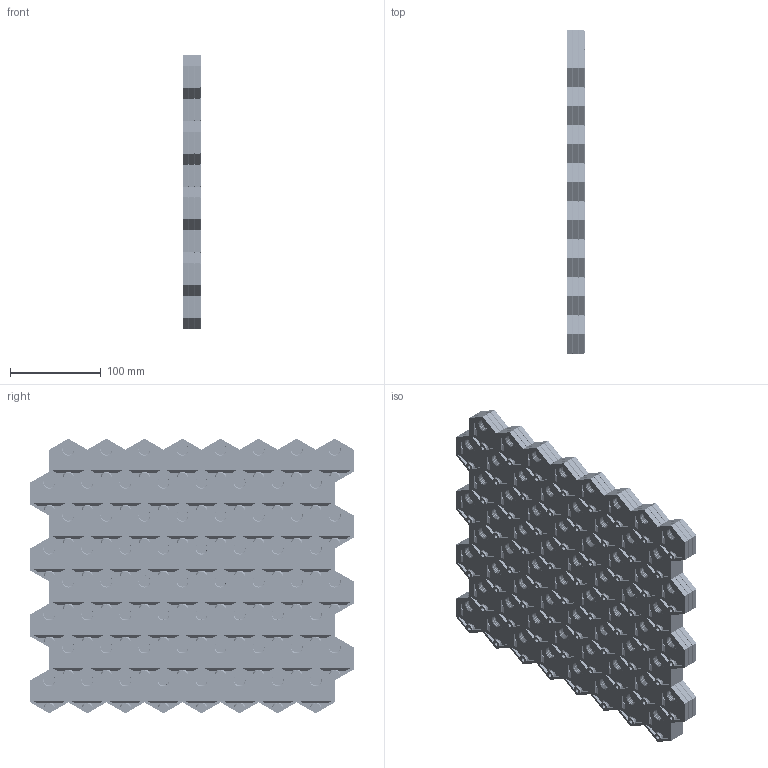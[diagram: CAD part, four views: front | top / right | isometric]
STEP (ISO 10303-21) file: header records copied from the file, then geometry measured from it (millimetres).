
FILE_DESCRIPTION(/* description */ ('','CAx-IF Rec.Pracs.---Representation and Presentation of Product Manufacturing Information (PMI)---4.0---2014-10-13'),/* implementation_level */ '2;1');
FILE_NAME(/* name */ 'GOEWS 8x8 Tile Stack with 0.4mm Spacer.step',/* time_stamp */ '2024-11-29T15:37:36-05:00',/* author */ (''),/* organization */ (''),/* preprocessor_version */ 'ST-DEVELOPER v20',/* originating_system */ 'Autodesk Translation Framework v13.20.0.188',/* authorisation */ '');
FILE_SCHEMA (('AP242_MANAGED_MODEL_BASED_3D_ENGINEERING_MIM_LF { 1 0 10303 442 1 1 4 }'));
Products named in the file (1): GOEWS Parametric Tile Stack with Spacer
Bounding box: 18.8 x 357 x 303.11 mm (x, y, z)
Volume: 957876.4 mm3; surface area: 1036926.3 mm2
Topology: 5 solids, 5 shells, 10109 faces, 27963 edges, 18056 vertices
Faces by surface type: plane 6845, cylinder 2304, cone 576, bspline 384
Full cylindrical faces by diameter (mm): 4 x192, 8 x192, 12.322 x384, 14.55 x384
Entity records: 542993 total; most frequent: CARTESIAN_POINT 292289, ORIENTED_EDGE 55926, DIRECTION 45495, EDGE_CURVE 27963, LINE 19899, VECTOR 19899, VERTEX_POINT 18056, AXIS2_PLACEMENT_3D 12798
